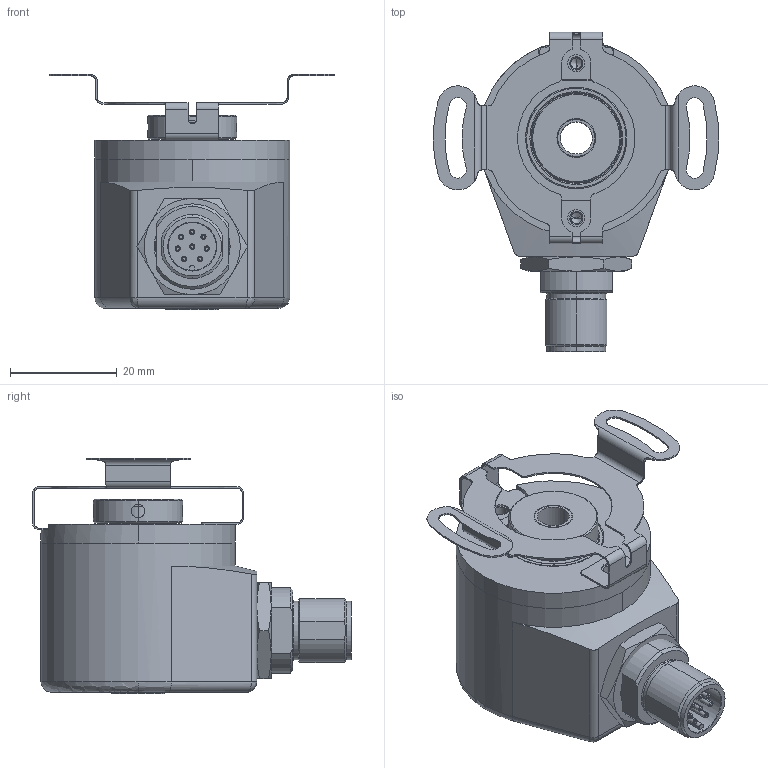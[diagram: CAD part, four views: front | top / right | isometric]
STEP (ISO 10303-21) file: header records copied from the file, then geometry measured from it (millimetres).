
FILE_DESCRIPTION (( 'STEP AP214' ), '1' );
FILE_NAME ('8.3620.52X4.XXXX.STEP', '2016-01-27T06:35:26', ( 'HeirlerN' ), ( 'Microsoft' ), 'SwSTEP 2.0', 'SolidWorks 2013', '' );
FILE_SCHEMA (( 'AUTOMOTIVE_DESIGN' ));
Length unit declared in the file: millimetre
Products named in the file (1): 8.3620.52X4.XXXX
Bounding box: 53.5 x 59.8 x 44.15 mm (x, y, z)
Surface area: 22455.5 mm2 (no closed solid volume)
Topology: 0 solids, 19 shells, 529 faces, 1306 edges, 836 vertices
Faces by surface type: cylinder 248, plane 148, cone 80, bspline 53
Entity records: 24061 total; most frequent: CARTESIAN_POINT 5600, DIRECTION 2665, ORIENTED_EDGE 2578, EDGE_CURVE 1292, AXIS2_PLACEMENT_3D 1088, VERTEX_POINT 836, CIRCLE 611, EDGE_LOOP 601
